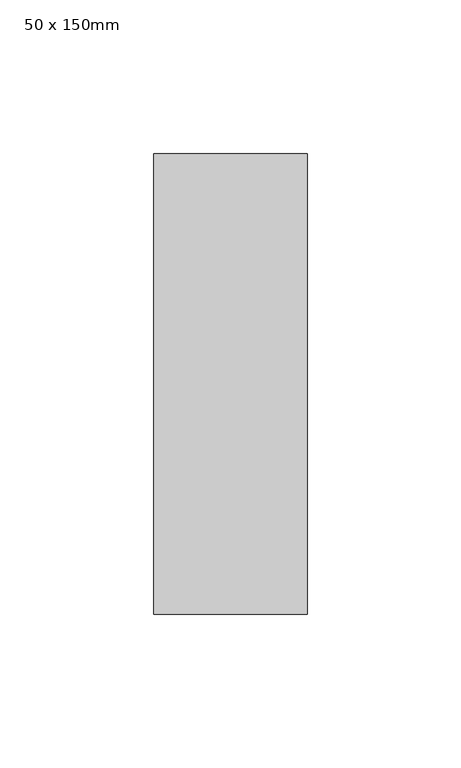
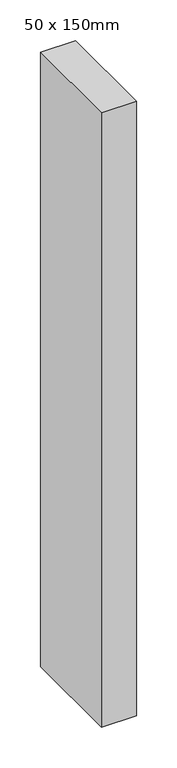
"""IFC4 building model written with IfcOpenShell, lengths in millimetres: member geometry, 矩形竖梃 : 50 x 150mm."""

from ifc_helpers import new_model, si_unit, frame, origin, place, context, project, spatial, polyline, outline, extrude, source, transform, mapped, element, save


def member_50_x_150mm_ee2168e0(model_context):
    return source(origin(), model_context, "Body", "SweptSolid", [
        extrude(outline(polyline([(25.0, 75.0), (25.0, -75.0), (-25.0, -75.0), (-25.0, 75.0), (25.0, 75.0)])), frame((0.0, 0.0, -924.0), z_axis=(0.0, 0.0, 1.0), x_axis=(1.0, 0.0, 0.0)), (0.0, 0.0, 1.0), 924.0),
    ])


if __name__ == "__main__":
    model = new_model("IFC4")
    model_context = context("Model", 3, world=origin())
    ifc_project = project(units=[si_unit("LENGTHUNIT", "METRE", prefix="MILLI")], contexts=[model_context])
    site = spatial("IfcSite", under=ifc_project)
    building = spatial("IfcBuilding", under=site)
    placement = place(None, origin())
    member_50_x_150mm_shape = member_50_x_150mm_ee2168e0(model_context)
    element("IfcMember", 1, ObjectType="矩形竖梃 : 50 x 150mm", at=placement, inside=building, context=model_context, shape_type="MappedRepresentation", body=[
        mapped(member_50_x_150mm_shape, transform((0.0, 0.0, 0.0), x_axis=(1.0, 0.0, 0.0), y_axis=(0.0, 1.0, 0.0), z_axis=(0.0, 0.0, 1.0))),
    ])
    save(model, "model.ifc")
